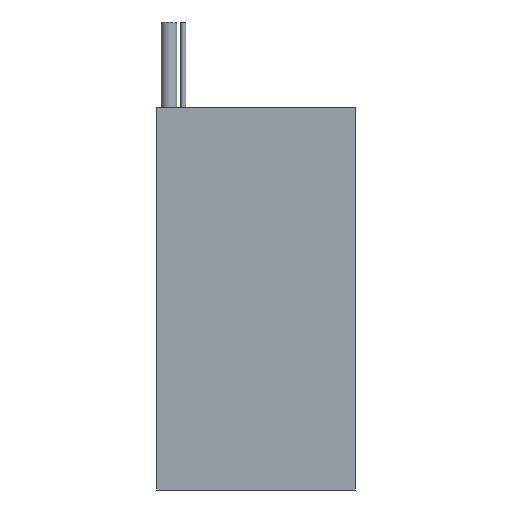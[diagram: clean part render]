
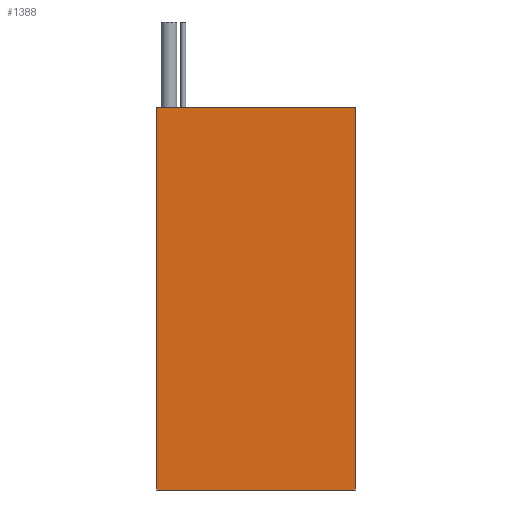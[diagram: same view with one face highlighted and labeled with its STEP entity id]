
A CAD part, front view. The second image highlights one B-rep face of the part: STEP entity #1388.
In plain terms, the highlighted planar face has unit normal (0, -1, 0).
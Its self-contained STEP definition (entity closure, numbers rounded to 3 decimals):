
#34 = EDGE_CURVE ( 'NONE', #565, #1124, #1776, .T. ) ;
#84 = ORIENTED_EDGE ( 'NONE', *, *, #2290, .F. ) ;
#313 = CARTESIAN_POINT ( 'NONE',  ( -454.861, 525.584, -223. ) ) ;
#332 = PLANE ( 'NONE',  #381 ) ;
#380 = ORIENTED_EDGE ( 'NONE', *, *, #2023, .T. ) ;
#381 = AXIS2_PLACEMENT_3D ( 'NONE', #433, #1823, #1845 ) ;
#394 = VERTEX_POINT ( 'NONE', #438 ) ;
#433 = CARTESIAN_POINT ( 'NONE',  ( -454.861, 525.584, -223. ) ) ;
#438 = CARTESIAN_POINT ( 'NONE',  ( -454.861, 525.584, 0. ) ) ;
#439 = DIRECTION ( 'NONE',  ( 1., 0., 0. ) ) ;
#565 = VERTEX_POINT ( 'NONE', #313 ) ;
#659 = CARTESIAN_POINT ( 'NONE',  ( -454.861, 525.584, -223. ) ) ;
#664 = VECTOR ( 'NONE', #1082, 1000. ) ;
#804 = LINE ( 'NONE', #1687, #1879 ) ;
#967 = CARTESIAN_POINT ( 'NONE',  ( -338.861, 525.584, -223. ) ) ;
#1082 = DIRECTION ( 'NONE',  ( 1., 0., 0. ) ) ;
#1124 = VERTEX_POINT ( 'NONE', #967 ) ;
#1245 = CARTESIAN_POINT ( 'NONE',  ( -454.861, 525.584, -223. ) ) ;
#1290 = EDGE_CURVE ( 'NONE', #565, #394, #2341, .T. ) ;
#1388 = ADVANCED_FACE ( 'NONE', ( #1606 ), #332, .T. ) ;
#1493 = DIRECTION ( 'NONE',  ( 0., 0., 1. ) ) ;
#1598 = EDGE_LOOP ( 'NONE', ( #84, #2043, #2145, #380 ) ) ;
#1606 = FACE_OUTER_BOUND ( 'NONE', #1598, .T. ) ;
#1687 = CARTESIAN_POINT ( 'NONE',  ( -338.861, 525.584, -223. ) ) ;
#1776 = LINE ( 'NONE', #1245, #664 ) ;
#1780 = CARTESIAN_POINT ( 'NONE',  ( -454.861, 525.584, 0. ) ) ;
#1823 = DIRECTION ( 'NONE',  ( 0., -1., 0. ) ) ;
#1837 = VECTOR ( 'NONE', #439, 1000. ) ;
#1845 = DIRECTION ( 'NONE',  ( 0., 0., -1. ) ) ;
#1879 = VECTOR ( 'NONE', #1493, 1000. ) ;
#2023 = EDGE_CURVE ( 'NONE', #1124, #2208, #804, .T. ) ;
#2043 = ORIENTED_EDGE ( 'NONE', *, *, #1290, .F. ) ;
#2145 = ORIENTED_EDGE ( 'NONE', *, *, #34, .T. ) ;
#2208 = VERTEX_POINT ( 'NONE', #2465 ) ;
#2282 = VECTOR ( 'NONE', #2306, 1000. ) ;
#2290 = EDGE_CURVE ( 'NONE', #394, #2208, #2316, .T. ) ;
#2306 = DIRECTION ( 'NONE',  ( 0., 0., 1. ) ) ;
#2316 = LINE ( 'NONE', #1780, #1837 ) ;
#2341 = LINE ( 'NONE', #659, #2282 ) ;
#2465 = CARTESIAN_POINT ( 'NONE',  ( -338.861, 525.584, 0. ) ) ;
